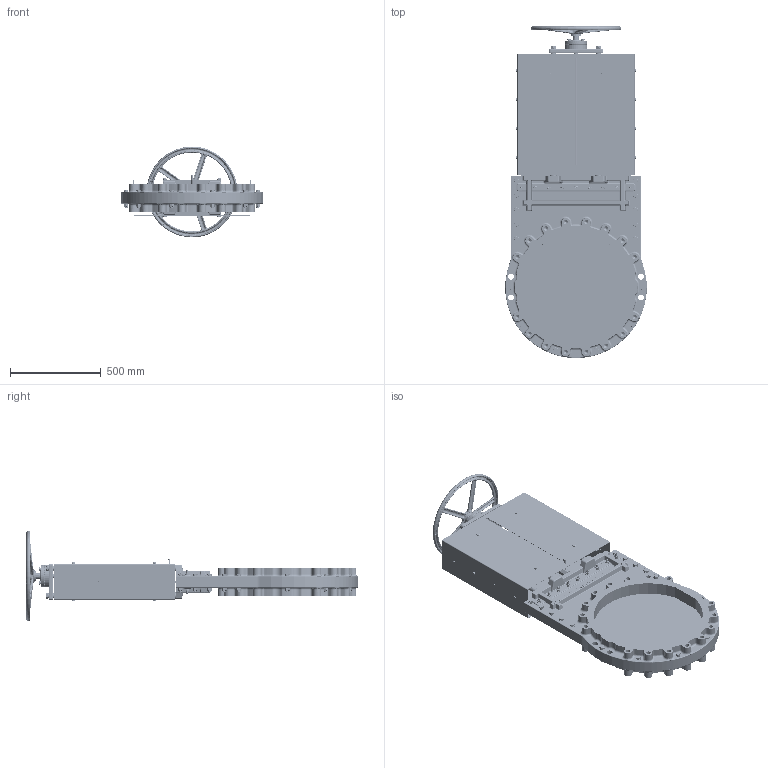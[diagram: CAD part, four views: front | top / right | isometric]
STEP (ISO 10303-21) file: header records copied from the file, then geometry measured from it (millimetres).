
FILE_DESCRIPTION(/* description */ (''),/* implementation_level */ '2;1');
FILE_NAME(/* name */ 'Non-rising stem knife gate valve with handwheel DN600-10带护罩.stp',/* time_stamp */ '2025-04-07T15:24:53+08:00',/* author */ (''),/* organization */ (''),/* preprocessor_version */ 'ST-DEVELOPER v15',/* originating_system */ 'SIEMENS PLM Software NX 10.0',/* authorisation */ '');
FILE_SCHEMA (('AP203_CONFIGURATION_CONTROLLED_3D_DESIGN_OF_MECHANICAL_PARTS_AND_ASSEMBLIES_MIM_LF { 1 0 10303 403 2 1 2}'));
Products named in the file (1): Admi27C0C158buiy
Bounding box: 778.14 x 1827.98 x 499.97 mm (x, y, z)
Volume: 50077599.5 mm3; surface area: 5774207.5 mm2
Topology: 1 solids, 73 shells, 4537 faces, 10913 edges, 6751 vertices
Faces by surface type: plane 1832, cylinder 1042, bspline 546, cone 467, extrusion 306, torus 196, sphere 148
Full cylindrical faces by diameter (mm): 6 x1, 8 x17, 8.4 x16, 8.5 x8, 9 x1, 9.5 x16, 10 x9, 10.5 x9, 11 x8, 11.053 x4, 11.4 x8, 11.5 x1, 12 x44, 12.5 x18, 13 x22, 15.053 x18, 15.6 x9, 16 x52, 17 x34, 17.2 x4, 17.5 x8, 19.053 x4, 20 x16, 21 x12, 22 x36, 24 x55, 27 x4, 28 x4, 30 x34, 32 x5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
Entity records: 154924 total; most frequent: CARTESIAN_POINT 62460, ORIENTED_EDGE 19038, DIRECTION 16960, EDGE_CURVE 9519, AXIS2_PLACEMENT_3D 6844, VERTEX_POINT 6413, EDGE_LOOP 5986, ADVANCED_FACE 4537
